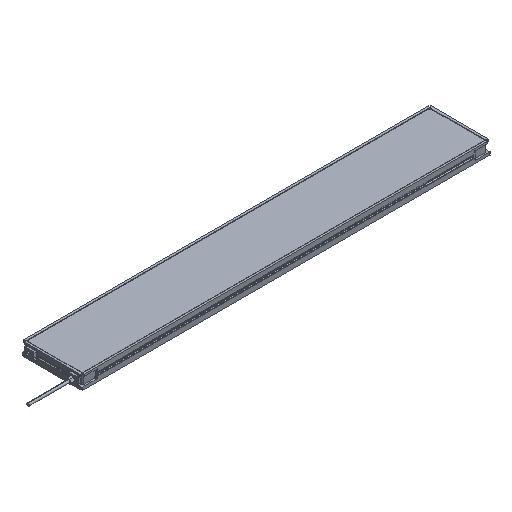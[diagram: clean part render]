
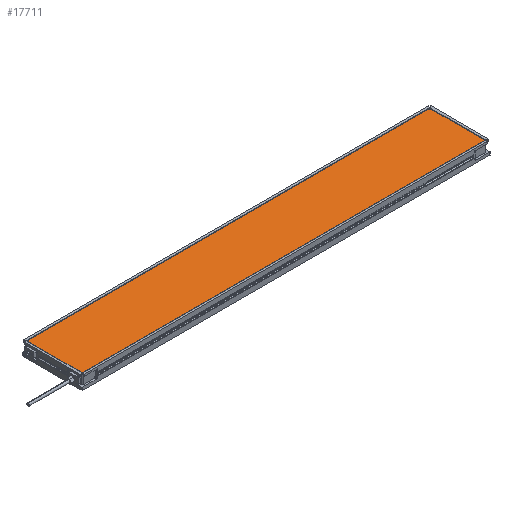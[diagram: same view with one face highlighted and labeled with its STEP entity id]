
A CAD part, isometric view. The second image highlights one B-rep face of the part: STEP entity #17711.
In plain terms, the highlighted planar face has unit normal (0, 0, 1).
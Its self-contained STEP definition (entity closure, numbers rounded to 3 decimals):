
#225 = AXIS2_PLACEMENT_3D ( 'NONE', #10494, #15712, #6141 ) ;
#809 = CARTESIAN_POINT ( 'NONE',  ( 0., 4., 41.85 ) ) ;
#1647 = VERTEX_POINT ( 'NONE', #10525 ) ;
#2088 = DIRECTION ( 'NONE',  ( 1., 0., 0. ) ) ;
#2304 = DIRECTION ( 'NONE',  ( 0., 1., 0. ) ) ;
#3038 = VECTOR ( 'NONE', #2304, 1000. ) ;
#3538 = LINE ( 'NONE', #809, #16146 ) ;
#3751 = CARTESIAN_POINT ( 'NONE',  ( 0., 196., 41.85 ) ) ;
#4165 = ORIENTED_EDGE ( 'NONE', *, *, #17828, .T. ) ;
#4524 = LINE ( 'NONE', #10087, #3038 ) ;
#4936 = FACE_OUTER_BOUND ( 'NONE', #9626, .T. ) ;
#5188 = EDGE_CURVE ( 'NONE', #14719, #5406, #4524, .T. ) ;
#5406 = VERTEX_POINT ( 'NONE', #9504 ) ;
#5475 = DIRECTION ( 'NONE',  ( 0., -1., 0. ) ) ;
#5964 = EDGE_CURVE ( 'NONE', #12071, #14719, #3538, .T. ) ;
#6051 = VECTOR ( 'NONE', #5475, 1000. ) ;
#6141 = DIRECTION ( 'NONE',  ( -1., 0., 0. ) ) ;
#6334 = VECTOR ( 'NONE', #16534, 1000. ) ;
#7196 = CARTESIAN_POINT ( 'NONE',  ( 4., 4., 41.85 ) ) ;
#9167 = CARTESIAN_POINT ( 'NONE',  ( 1396., 4., 41.85 ) ) ;
#9504 = CARTESIAN_POINT ( 'NONE',  ( 1396., 196., 41.85 ) ) ;
#9626 = EDGE_LOOP ( 'NONE', ( #16780, #4165, #15875, #16837 ) ) ;
#10087 = CARTESIAN_POINT ( 'NONE',  ( 1396., 0., 41.85 ) ) ;
#10494 = CARTESIAN_POINT ( 'NONE',  ( 0., 0., 41.85 ) ) ;
#10525 = CARTESIAN_POINT ( 'NONE',  ( 4., 196., 41.85 ) ) ;
#11964 = EDGE_CURVE ( 'NONE', #1647, #12071, #16687, .T. ) ;
#12071 = VERTEX_POINT ( 'NONE', #7196 ) ;
#13072 = PLANE ( 'NONE',  #225 ) ;
#14719 = VERTEX_POINT ( 'NONE', #9167 ) ;
#14852 = CARTESIAN_POINT ( 'NONE',  ( 4., 0., 41.85 ) ) ;
#14872 = LINE ( 'NONE', #3751, #6334 ) ;
#15712 = DIRECTION ( 'NONE',  ( 0., 0., -1. ) ) ;
#15875 = ORIENTED_EDGE ( 'NONE', *, *, #11964, .T. ) ;
#16146 = VECTOR ( 'NONE', #2088, 1000. ) ;
#16534 = DIRECTION ( 'NONE',  ( -1., 0., 0. ) ) ;
#16687 = LINE ( 'NONE', #14852, #6051 ) ;
#16780 = ORIENTED_EDGE ( 'NONE', *, *, #5188, .T. ) ;
#16837 = ORIENTED_EDGE ( 'NONE', *, *, #5964, .T. ) ;
#17711 = ADVANCED_FACE ( 'NONE', ( #4936 ), #13072, .F. ) ;
#17828 = EDGE_CURVE ( 'NONE', #5406, #1647, #14872, .T. ) ;
